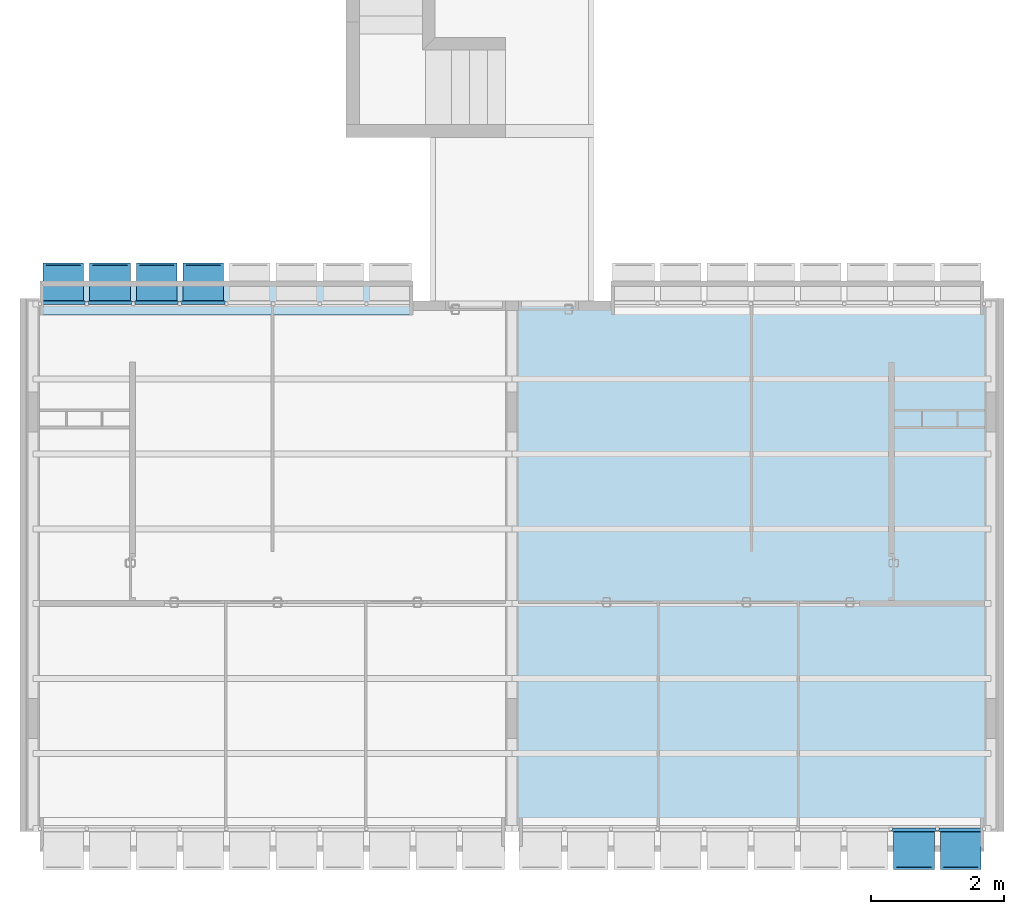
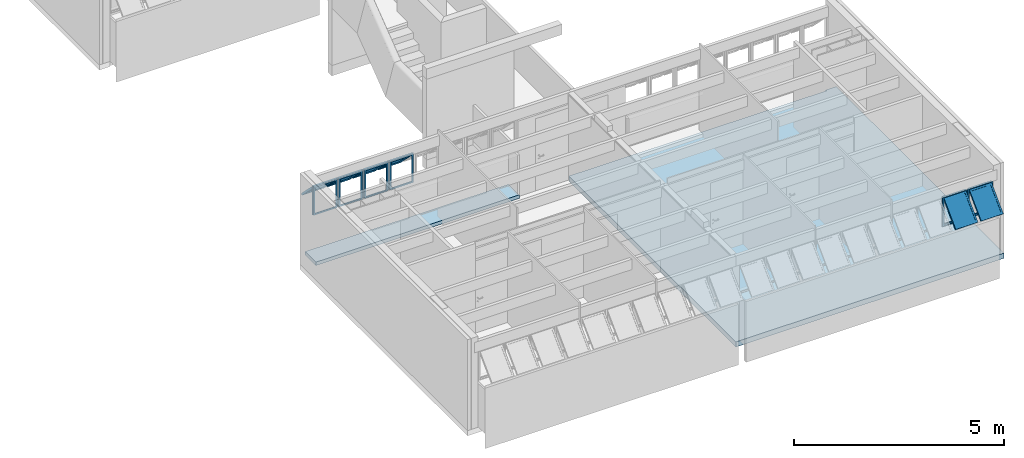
# One storey, part 7 of 40: 6 plates, 2 slabs, 2 elements without a shape of their own.
"""IFC4 building model written with IfcOpenShell, lengths in millimetres."""

import ifcopenshell
import ifcopenshell.guid

model = None  # the IFC model being written
_history = None  # IfcOwnerHistory: only IFC2X3 demands one
_inside = {}  # id of a spatial element -> (the spatial element, [elements in it])
_under = {}  # id of a project, library or spatial element -> (it, [spatial elements below it])
_declared = {}  # id of a project -> (the project, [libraries it declares])
_typed = {}  # id of a type object -> (the type object, [elements of that type])
_made_of = {}  # id of a material, layer set ... -> (it, [elements and type objects made of it])


def new_model(schema):
    """Start an empty IFC model of exactly this schema.

    Asked for "IFC4X3", IfcOpenShell would pick the latest addendum, in which some entities
    have other attributes; the version numbers below select the first issue.
    IFC2X3 requires an IfcOwnerHistory on every rooted entity: one is made here for all.
    """
    global model, _history
    if schema == "IFC4X3":
        model = ifcopenshell.file(schema_version=(4, 3, 0, 0))
    else:
        model = ifcopenshell.file(schema=schema)
    _inside.clear()
    _under.clear()
    _declared.clear()
    _typed.clear()
    _made_of.clear()
    _history = None
    if model.schema == "IFC2X3":
        org = make("IfcOrganization", Name="unknown")
        user = make(
            "IfcPersonAndOrganization",
            ThePerson=make("IfcPerson", FamilyName="unknown"),
            TheOrganization=org,
        )
        app = make(
            "IfcApplication",
            ApplicationDeveloper=org,
            Version="unknown",
            ApplicationFullName="unknown",
            ApplicationIdentifier="unknown",
        )
        _history = make(
            "IfcOwnerHistory",
            OwningUser=user,
            OwningApplication=app,
            ChangeAction="ADDED",
            CreationDate=0,
        )
    return model


def make(cls, **values):
    """One entity of the class cls with the attributes given. An attribute that is None is left unset."""
    return model.create_entity(
        cls, **{name: value for name, value in values.items() if value is not None}
    )


def entity(cls, *values):
    """Any entity or typed value of the class cls, its attributes in the order of the schema. None: left unset."""
    e = model.create_entity(cls)
    for i, value in enumerate(values):
        if value is not None:
            e[i] = value
    return e


def rooted(cls, **values):
    """An entity with a GlobalId (a new one), such as an element, a storey or a relation."""
    return make(cls, GlobalId=ifcopenshell.guid.new(), OwnerHistory=_history, **values)


def si_unit(unit_type, name, prefix=None):
    """IfcSIUnit, for example si_unit("LENGTHUNIT", "METRE", prefix="MILLI")."""
    return make("IfcSIUnit", UnitType=unit_type, Prefix=prefix, Name=name)


def converted_unit(unit_type, name, factor, base, dimensions=None, offset=None):
    """IfcConversionBasedUnit, such as the inch: factor (a typed value) times the base unit."""
    return make(
        "IfcConversionBasedUnit"
        if offset is None
        else "IfcConversionBasedUnitWithOffset",
        ConversionOffset=offset,
        Dimensions=None
        if dimensions is None
        else entity("IfcDimensionalExponents", *dimensions),
        UnitType=unit_type,
        Name=name,
        ConversionFactor=make(
            "IfcMeasureWithUnit", ValueComponent=factor, UnitComponent=base
        ),
    )


def derived_unit(unit_type, elements):
    """IfcDerivedUnit: a product of units, each with its exponent."""
    return make(
        "IfcDerivedUnit",
        Elements=[
            make("IfcDerivedUnitElement", Unit=unit, Exponent=power)
            for unit, power in elements
        ],
        UnitType=unit_type,
    )


def assignment(units):
    """IfcUnitAssignment: the units of a project."""
    return None if units is None else make("IfcUnitAssignment", Units=units)


def point(xyz):
    """IfcCartesianPoint."""
    return None if xyz is None else make("IfcCartesianPoint", Coordinates=xyz)


def direction(xyz):
    """IfcDirection."""
    return None if xyz is None else make("IfcDirection", DirectionRatios=xyz)


def frame(location, z_axis=None, x_axis=None):
    """IfcAxis2Placement3D, a coordinate frame: its origin and axes. An axis left out is left unset."""
    return make(
        "IfcAxis2Placement3D",
        Location=point(location),
        Axis=direction(z_axis),
        RefDirection=direction(x_axis),
    )


def origin_with_axes():
    """The frame at (0, 0, 0) with the z axis (0, 0, 1) and the x axis (1, 0, 0) written out."""
    return frame((0.0, 0.0, 0.0), z_axis=(0.0, 0.0, 1.0), x_axis=(1.0, 0.0, 0.0))


def place(relative_to, where):
    """IfcLocalPlacement: puts the frame where relative to a parent placement (None: the world)."""
    return make(
        "IfcLocalPlacement", PlacementRelTo=relative_to, RelativePlacement=where
    )


def context(
    kind, dimensions, precision=None, world=None, true_north=None, identifier=None
):
    """IfcGeometricRepresentationContext, for example the 3D "Model" context."""
    return make(
        "IfcGeometricRepresentationContext",
        ContextIdentifier=identifier,
        ContextType=kind,
        CoordinateSpaceDimension=dimensions,
        Precision=precision,
        WorldCoordinateSystem=world,
        TrueNorth=true_north,
    )


def subcontext(parent, identifier, kind, view, scale=None):
    """IfcGeometricRepresentationSubContext, for example "Body" below "Model"."""
    return make(
        "IfcGeometricRepresentationSubContext",
        ContextIdentifier=identifier,
        ContextType=kind,
        ParentContext=parent,
        TargetScale=scale,
        TargetView=view,
    )


def project(units=None, contexts=None):
    """IfcProject with its units and contexts."""
    return rooted(
        "IfcProject",
        Name="project",
        RepresentationContexts=contexts,
        UnitsInContext=assignment(units),
    )


def spatial(cls, under=None, at=None, **own):
    """A site, building, storey or space (cls), placed at a placement, below another one or the project."""
    s = rooted(cls, ObjectPlacement=at, **own)
    if under is not None:
        _under.setdefault(under.id(), (under, []))[1].append(s)
    return s


def point_list(points):
    """IfcCartesianPointList2D or 3D."""
    cls = (
        "IfcCartesianPointList2D" if len(points[0]) == 2 else "IfcCartesianPointList3D"
    )
    return make(cls, CoordList=points)


def line(*indices):
    """IfcLineIndex: a straight run through numbered points of an indexed curve."""
    return model.create_entity("IfcLineIndex", indices)


def indexed_curve(points, segments=None, self_intersect=None):
    """IfcIndexedPolyCurve: lines and arcs through numbered points (the first is 1)."""
    return make(
        "IfcIndexedPolyCurve",
        Points=point_list(points),
        Segments=segments,
        SelfIntersect=self_intersect,
    )


def outline(outer, holes=None, kind="AREA"):
    """IfcArbitraryClosedProfileDef: a profile drawn as a closed curve; with holes, ...WithVoids."""
    if holes is None:
        return make("IfcArbitraryClosedProfileDef", ProfileType=kind, OuterCurve=outer)
    return make(
        "IfcArbitraryProfileDefWithVoids",
        ProfileType=kind,
        OuterCurve=outer,
        InnerCurves=holes,
    )


def extrude(swept, where, along, depth):
    """IfcExtrudedAreaSolid: the profile swept, set in the frame where, extruded along a direction by depth."""
    return make(
        "IfcExtrudedAreaSolid",
        SweptArea=swept,
        Position=where,
        ExtrudedDirection=direction(along),
        Depth=depth,
    )


def polygons(points, faces, closed=None, point_numbers=None):
    """IfcPolygonalFaceSet: a face is its outer loop, then its inner loops; points numbered from 1."""
    made = []
    for loops in faces:
        if len(loops) == 1:
            made.append(make("IfcIndexedPolygonalFace", CoordIndex=loops[0]))
        else:
            made.append(
                make(
                    "IfcIndexedPolygonalFaceWithVoids",
                    CoordIndex=loops[0],
                    InnerCoordIndices=loops[1:],
                )
            )
    return make(
        "IfcPolygonalFaceSet",
        Coordinates=point_list(points),
        Closed=closed,
        Faces=made,
        PnIndex=point_numbers,
    )


def shape(context_of_items, identifier, shape_type, items):
    """IfcShapeRepresentation: the items that make up one representation, for example the "Body"."""
    return make(
        "IfcShapeRepresentation",
        ContextOfItems=context_of_items,
        RepresentationIdentifier=identifier,
        RepresentationType=shape_type,
        Items=items,
    )


def source(mapping_origin, context_of_items, identifier, shape_type, items):
    """IfcRepresentationMap: a shape defined once, which mapped items show again and again."""
    return make(
        "IfcRepresentationMap",
        MappingOrigin=mapping_origin,
        MappedRepresentation=shape(context_of_items, identifier, shape_type, items),
    )


def transform(
    local_origin,
    x_axis=None,
    y_axis=None,
    z_axis=None,
    scale=None,
    scale2=None,
    scale3=None,
    uniform=True,
):
    """IfcCartesianTransformationOperator3D, or its non-uniform kind. x_axis, y_axis, z_axis: its Axis1, 2, 3."""
    if uniform:
        return make(
            "IfcCartesianTransformationOperator3D",
            Axis1=direction(x_axis),
            Axis2=direction(y_axis),
            LocalOrigin=point(local_origin),
            Scale=scale,
            Axis3=direction(z_axis),
        )
    return make(
        "IfcCartesianTransformationOperator3DnonUniform",
        Axis1=direction(x_axis),
        Axis2=direction(y_axis),
        LocalOrigin=point(local_origin),
        Scale=scale,
        Axis3=direction(z_axis),
        Scale2=scale2,
        Scale3=scale3,
    )


def mapped(mapping_source, mapping_target):
    """IfcMappedItem: shows the shape of a source again, moved by a transform."""
    return make(
        "IfcMappedItem", MappingSource=mapping_source, MappingTarget=mapping_target
    )


def material(Name=None, Category=None):
    """IfcMaterial."""
    return make("IfcMaterial", Name=Name, Category=Category)


def layer(
    of_material, thickness, ventilated=None, Name=None, Category=None, Priority=None
):
    """IfcMaterialLayer: one layer of a wall or slab, of a material (None: an air gap)."""
    return make(
        "IfcMaterialLayer",
        Material=of_material,
        LayerThickness=thickness,
        IsVentilated=ventilated,
        Name=Name,
        Category=Category,
        Priority=Priority,
    )


def layer_set(layers, Name=None):
    """IfcMaterialLayerSet."""
    return make("IfcMaterialLayerSet", MaterialLayers=layers, LayerSetName=Name)


def layer_usage(for_layer_set, set_direction, sense, offset, extent=None):
    """IfcMaterialLayerSetUsage: how a layer set lies in its element."""
    return make(
        "IfcMaterialLayerSetUsage",
        ForLayerSet=for_layer_set,
        LayerSetDirection=set_direction,
        DirectionSense=sense,
        OffsetFromReferenceLine=offset,
        ReferenceExtent=extent,
    )


def constituent(of_material, Name=None, Category=None, fraction=None):
    """IfcMaterialConstituent: one of the materials an element consists of."""
    return make(
        "IfcMaterialConstituent",
        Name=Name,
        Material=of_material,
        Fraction=fraction,
        Category=Category,
    )


def constituent_set(constituents=None, Name=None):
    """IfcMaterialConstituentSet."""
    return make(
        "IfcMaterialConstituentSet", Name=Name, MaterialConstituents=constituents
    )


def made_of(thing, what):
    """Note that an element or type object is made of a material, layer set ...; save() writes the relation."""
    if what is not None:
        _made_of.setdefault(what.id(), (what, []))[1].append(thing)
    return thing


def type_object(cls, material=None, **own):
    """A type object (cls), such as IfcWallType, which elements share."""
    return made_of(rooted(cls, **own), material)


def element(
    cls,
    number,
    at=None,
    inside=None,
    cuts=None,
    type_object=None,
    material=None,
    context=None,
    identifier="Body",
    shape_type=None,
    held_by="IfcProductDefinitionShape",
    body=None,
    shapes=None,
    **own,
):
    """One element of the class cls, such as IfcWall. Its Tag is "e" and its number.

    at: its placement. inside: the storey or other place that contains it. cuts: it is an
    opening in that element (IfcRelVoidsElement). A single representation is given by context,
    identifier, shape_type and body (its items); several are given by shapes. held_by: the class
    of the entity that holds the representations. save() writes the other relations.
    """
    e = rooted(cls, Tag="e%d" % number, ObjectPlacement=at, **own)
    if body is not None:
        shapes = [shape(context, identifier, shape_type, body)]
    if shapes is not None:
        e.Representation = make(held_by, Representations=shapes)
    if inside is not None:
        _inside.setdefault(inside.id(), (inside, []))[1].append(e)
    if cuts is not None:
        rooted(
            "IfcRelVoidsElement", RelatingBuildingElement=cuts, RelatedOpeningElement=e
        )
    if type_object is not None:
        _typed.setdefault(type_object.id(), (type_object, []))[1].append(e)
    return made_of(e, material)


def aggregate(whole, parts):
    """IfcRelAggregates: a whole, such as a stair, and the parts it consists of."""
    return rooted("IfcRelAggregates", RelatingObject=whole, RelatedObjects=parts)


def save(model, path):
    """Write the relations noted so far, then the file.

    IfcRelAggregates (storeys below a building ...), IfcRelContainedInSpatialStructure (elements
    in a storey), IfcRelDefinesByType, IfcRelAssociatesMaterial and IfcRelDeclares: one each for
    every whole, place, type object, material and project.
    """
    for whole, parts in _under.values():
        aggregate(whole, parts)
    for where, things in _inside.values():
        rooted(
            "IfcRelContainedInSpatialStructure",
            RelatedElements=things,
            RelatingStructure=where,
        )
    for kind, things in _typed.values():
        rooted("IfcRelDefinesByType", RelatedObjects=things, RelatingType=kind)
    for what, things in _made_of.values():
        rooted("IfcRelAssociatesMaterial", RelatedObjects=things, RelatingMaterial=what)
    for by, libraries in _declared.values():
        rooted("IfcRelDeclares", RelatingContext=by, RelatedDefinitions=libraries)
    model.write(path)


model = new_model("IFC4")

# Units and contexts
model_context = context("Model", 3, precision=0.01, world=origin_with_axes(), true_north=direction((0.0, 1.0)))
body_context = subcontext(model_context, "Body", "Model", "MODEL_VIEW")
ifc_project = project(units=[si_unit("LENGTHUNIT", "METRE", prefix="MILLI"), si_unit("AREAUNIT", "SQUARE_METRE"), si_unit("VOLUMEUNIT", "CUBIC_METRE"), converted_unit("PLANEANGLEUNIT", "DEGREE", entity("IfcPlaneAngleMeasure", 0.0174532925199), si_unit("PLANEANGLEUNIT", "RADIAN"), dimensions=[0, 0, 0, 0, 0, 0, 0]), converted_unit("TIMEUNIT", "Year", entity("IfcTimeMeasure", 31556926.0), si_unit("TIMEUNIT", "SECOND"), dimensions=[0, 0, 1, 0, 0, 0, 0]), si_unit("MASSUNIT", "GRAM", prefix="KILO"), si_unit("THERMODYNAMICTEMPERATUREUNIT", "DEGREE_CELSIUS"), si_unit("LUMINOUSINTENSITYUNIT", "LUMEN"), si_unit("ENERGYUNIT", "JOULE", prefix="MEGA"), derived_unit("THERMALCONDUCTANCEUNIT", [(si_unit("POWERUNIT", "WATT"), 1), (si_unit("LENGTHUNIT", "METRE"), -1), (si_unit("THERMODYNAMICTEMPERATUREUNIT", "KELVIN"), -1)]), derived_unit("SPECIFICHEATCAPACITYUNIT", [(si_unit("ENERGYUNIT", "JOULE"), 1), (si_unit("MASSUNIT", "GRAM", prefix="KILO"), -1), (si_unit("THERMODYNAMICTEMPERATUREUNIT", "KELVIN"), -1)]), derived_unit("MASSDENSITYUNIT", [(si_unit("MASSUNIT", "GRAM", prefix="KILO"), 1), (si_unit("VOLUMEUNIT", "CUBIC_METRE"), -1)])], contexts=[model_context])

# Site, building, storey
site_placement = place(None, origin_with_axes())
site = spatial("IfcSite", under=ifc_project, at=site_placement, Name="Local", CompositionType="ELEMENT")
building_placement = place(site_placement, origin_with_axes())
building = spatial("IfcBuilding", under=site, at=building_placement, Name="Construção", CompositionType="ELEMENT")
storey_placement = place(building_placement, origin_with_axes())
storey = spatial("IfcBuildingStorey", under=building, at=storey_placement, Name="Primeiro Pavimento", CompositionType="ELEMENT", Elevation=0.0)

# Slabs
ifc_material_1 = material(Name="Concreto Armado Moldado in Loco - Estrutural")
ifc_layer_1 = layer(ifc_material_1, 150.0, ventilated="UNKNOWN", Name="Concreto Armado Moldado in Loco - Estrutural")
ifc_layer_set_1 = layer_set([ifc_layer_1], Name="Concreto Armado Moldado in Loco - Estrutural 150")
ifc_layer_usage_1 = layer_usage(ifc_layer_set_1, "AXIS3", "NEGATIVE", 150.0)
slab_type_1 = type_object("IfcSlabType", Name="Concreto Armado Moldado in Loco - Estrutural 150", PredefinedType="FLOOR")
slab_1_placement = place(storey_placement, frame((14770.0, 300.0, 0.0), z_axis=(0.0, 0.0, 1.0), x_axis=(1.0, 0.0, 0.0)))
element("IfcSlab", 1, at=slab_1_placement, inside=storey, type_object=slab_type_1, material=ifc_layer_usage_1, Name="APTO2-LAJE-000", PredefinedType="FLOOR", context=body_context, shape_type="SweptSolid", body=[
    extrude(outline(indexed_curve([(0.0, 0.0), (0.0, 7999.99999872), (-289.999999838, 8000.00000006), (-290.0, 7965.0), (-5900.0, 7965.0), (-6160.00008404, 7964.99999866), (-7385.0, 7964.99999866), (-7385.0, 0.0), (-299.999978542, 0.0)], segments=[line(1, 2, 3, 4, 5, 6, 7, 8, 9, 1)])), frame((0.0, 0.0, -150.0), z_axis=(0.0, 0.0, 1.0), x_axis=(1.0, 0.0, 0.0)), (0.0, 0.0, 1.0), 150.0),
])
ifc_layer_2 = layer(ifc_material_1, 100.0, ventilated="UNKNOWN", Name="Concreto Armado Moldado in Loco - Estrutural")
ifc_layer_set_2 = layer_set([ifc_layer_2], Name="Concreto Armado Moldado in Loco - Estrutural 100")
ifc_layer_usage_2 = layer_usage(ifc_layer_set_2, "AXIS3", "NEGATIVE", 100.0)
slab_type_2 = type_object("IfcSlabType", Name="Concreto Armado Moldado in Loco - Estrutural 100", PredefinedType="FLOOR")
slab_2_placement = place(storey_placement, frame((300.0, 8564.99999866, 100.0), z_axis=(0.0, 0.0, 1.0), x_axis=(1.0, 0.0, 0.0)))
element("IfcSlab", 2, at=slab_2_placement, inside=storey, type_object=slab_type_2, material=ifc_layer_usage_2, Name="APTO1-LAJE-004", PredefinedType="FLOOR", context=body_context, shape_type="SweptSolid", body=[
    extrude(outline(indexed_curve([(0.0, 0.0), (0.0, -510.0), (5600.0, -510.0), (5600.0, 0.0)], segments=[line(1, 2, 3, 4, 1)])), frame((0.0, 0.0, -100.0), z_axis=(0.0, 0.0, 1.0), x_axis=(1.0, 0.0, 0.0)), (0.0, 0.0, 1.0), 100.0),
])

# Window, plate
window_type = type_object("IfcWindowType", Name="Tipo de Parede Cortina", PartitioningType="NOTDEFINED", PredefinedType="NOTDEFINED")
window_1_placement = place(storey_placement, frame((294.99998404, 8250.0, 1355.00007107), z_axis=(0.0, 0.0, 1.0), x_axis=(1.0, 0.0, 0.0)))
window_1 = element("IfcWindow", 3, at=window_1_placement, inside=storey, type_object=window_type, Name="APTO1-JANELA-000", PredefinedType="NOTDEFINED")
ifc_material_2 = material(Name="Alumínio")
ifc_constituent_1 = constituent(ifc_material_2, Name="Alumínio")
ifc_material_3 = material(Name="Vidro")
ifc_constituent_2 = constituent(ifc_material_3, Name="Vidro")
ifc_constituent_set_1 = constituent_set(constituents=[ifc_constituent_1, ifc_constituent_2])
plate_type = type_object("IfcPlateType", Name="Painel Principal 690 x 845 x 20", PredefinedType="CURTAIN_PANEL")
shared_shape_1 = source(origin_with_axes(), body_context, "Body", "Tessellation", [
    polygons([(-25.0000036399, 0.0, -40.0), (-25.0000036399, 0.0, -35.0), (-674.999997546, 0.0, -35.0), (-674.999997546, 0.0, -40.0), (-70.0000036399, 45.0, -40.0), (-70.0000036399, 45.0, -35.0), (-629.999997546, 45.0, -35.0), (-629.999997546, 45.0, -40.0)], [[[1, 2, 3, 4]], [[5, 6, 2, 1]], [[2, 6, 7, 3]], [[4, 3, 7, 8]], [[1, 4, 8, 5]], [[8, 7, 6, 5]]], closed=True),
    polygons([(-674.999997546, 0.0, -40.0), (-674.999997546, 0.0, -35.0), (-674.999997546, 844.999891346, -35.0), (-674.999997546, 844.999891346, -40.0), (-629.999997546, 45.0, -40.0), (-629.999997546, 45.0, -35.0), (-629.999997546, 799.999891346, -35.0), (-629.999997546, 799.999891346, -40.0)], [[[1, 2, 3, 4]], [[5, 6, 2, 1]], [[2, 6, 7, 3]], [[4, 3, 7, 8]], [[1, 4, 8, 5]], [[8, 7, 6, 5]]], closed=True),
    polygons([(-25.0000036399, 844.999891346, -40.0), (-25.0000036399, 844.999891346, -35.0), (-70.0000036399, 799.999891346, -35.0), (-70.0000036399, 799.999891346, -40.0), (-674.999997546, 844.999891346, -40.0), (-674.999997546, 844.999891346, -35.0), (-629.999997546, 799.999891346, -35.0), (-629.999997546, 799.999891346, -40.0)], [[[1, 2, 3, 4]], [[5, 6, 2, 1]], [[2, 6, 7, 3]], [[4, 3, 7, 8]], [[1, 4, 8, 5]], [[8, 7, 6, 5]]], closed=True),
    polygons([(-25.0000036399, 0.0, -40.0), (-25.0000036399, 0.0, -35.0), (-70.0000036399, 45.0, -35.0), (-70.0000036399, 45.0, -40.0), (-25.0000036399, 844.999891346, -40.0), (-25.0000036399, 844.999891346, -35.0), (-70.0000036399, 799.999891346, -35.0), (-70.0000036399, 799.999891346, -40.0)], [[[1, 2, 3, 4]], [[5, 6, 2, 1]], [[2, 6, 7, 3]], [[4, 3, 7, 8]], [[1, 4, 8, 5]], [[8, 7, 6, 5]]], closed=True),
    polygons([(-25.0000036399, 0.0, -35.0), (-25.0000036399, 0.0, 15.0), (-674.999997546, 0.0, 15.0), (-674.999997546, 0.0, -35.0), (-45.0000036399, 20.0, -35.0), (-45.0000036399, 20.0, 15.0), (-654.999997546, 20.0, 15.0), (-654.999997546, 20.0, -35.0)], [[[1, 2, 3, 4]], [[5, 6, 2, 1]], [[2, 6, 7, 3]], [[4, 3, 7, 8]], [[1, 4, 8, 5]], [[8, 7, 6, 5]]], closed=True),
    polygons([(-674.999997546, 0.0, -35.0), (-674.999997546, 0.0, 15.0), (-674.999997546, 844.999891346, 15.0), (-674.999997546, 844.999891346, -35.0), (-654.999997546, 20.0, -35.0), (-654.999997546, 20.0, 15.0), (-654.999997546, 824.999891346, 15.0), (-654.999997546, 824.999891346, -35.0)], [[[1, 2, 3, 4]], [[5, 6, 2, 1]], [[2, 6, 7, 3]], [[4, 3, 7, 8]], [[1, 4, 8, 5]], [[8, 7, 6, 5]]], closed=True),
    polygons([(-25.0000036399, 844.999891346, -35.0), (-25.0000036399, 844.999891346, 15.0), (-45.0000036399, 824.999891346, 15.0), (-45.0000036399, 824.999891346, -35.0), (-674.999997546, 844.999891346, -35.0), (-674.999997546, 844.999891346, 15.0), (-654.999997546, 824.999891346, 15.0), (-654.999997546, 824.999891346, -35.0)], [[[1, 2, 3, 4]], [[5, 6, 2, 1]], [[2, 6, 7, 3]], [[4, 3, 7, 8]], [[1, 4, 8, 5]], [[8, 7, 6, 5]]], closed=True),
    polygons([(-25.0000036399, 0.0, -35.0), (-25.0000036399, 0.0, 15.0), (-45.0000036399, 20.0, 15.0), (-45.0000036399, 20.0, -35.0), (-25.0000036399, 844.999891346, -35.0), (-25.0000036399, 844.999891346, 15.0), (-45.0000036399, 824.999891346, 15.0), (-45.0000036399, 824.999891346, -35.0)], [[[1, 2, 3, 4]], [[5, 6, 2, 1]], [[2, 6, 7, 3]], [[4, 3, 7, 8]], [[1, 4, 8, 5]], [[8, 7, 6, 5]]], closed=True),
    polygons([(-694.999995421, 0.0, -10.0), (-694.999995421, 0.0, 10.0), (-694.999995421, 844.999891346, 10.0), (-694.999995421, 844.999891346, -10.0), (-674.999997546, 0.0, -10.0), (-674.999997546, 0.0, 10.0), (-674.999997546, 844.999891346, 10.0), (-674.999997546, 844.999891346, -10.0)], [[[1, 2, 3, 4]], [[5, 6, 2, 1]], [[2, 6, 7, 3]], [[4, 3, 7, 8]], [[1, 4, 8, 5]], [[8, 7, 6, 5]]], closed=True),
    polygons([(-5.00000576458, 844.999891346, -10.0), (-5.00000576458, 844.999891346, 10.0), (-5.00000576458, 0.0, 10.0), (-5.00000576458, 0.0, -10.0), (-25.0000036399, 844.999891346, -10.0), (-25.0000036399, 844.999891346, 10.0), (-25.0000036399, 0.0, 10.0), (-25.0000036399, 0.0, -10.0)], [[[1, 2, 3, 4]], [[5, 6, 2, 1]], [[2, 6, 7, 3]], [[4, 3, 7, 8]], [[1, 4, 8, 5]], [[8, 7, 6, 5]]], closed=True),
    polygons([(-90.0000036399, 252.243475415, 517.045737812), (-90.0000036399, 291.13434838, 555.936610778), (-90.0000036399, 796.715620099, 50.3553390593), (-90.0000036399, 757.824747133, 11.4644660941), (-45.0000036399, 220.423670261, 548.865542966), (-45.0000036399, 259.314543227, 587.756415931), (-45.0000036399, 828.535425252, 18.5355339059), (-45.0000036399, 789.644552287, -20.3553390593)], [[[1, 2, 3, 4]], [[5, 6, 2, 1]], [[2, 6, 7, 3]], [[4, 3, 7, 8]], [[1, 4, 8, 5]], [[8, 7, 6, 5]]], closed=True),
    polygons([(-654.999997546, 220.423670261, 548.865542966), (-654.999997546, 259.314543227, 587.756415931), (-654.999997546, 828.535425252, 18.5355339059), (-654.999997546, 789.644552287, -20.3553390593), (-609.999997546, 252.243475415, 517.045737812), (-609.999997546, 291.13434838, 555.936610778), (-609.999997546, 796.715620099, 50.3553390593), (-609.999997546, 757.824747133, 11.4644660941)], [[[1, 2, 3, 4]], [[5, 6, 2, 1]], [[2, 6, 7, 3]], [[4, 3, 7, 8]], [[1, 4, 8, 5]], [[8, 7, 6, 5]]], closed=True),
    polygons([(-654.999997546, 220.423670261, 548.865542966), (-654.999997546, 259.314543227, 587.756415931), (-609.999997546, 291.13434838, 555.936610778), (-609.999997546, 252.243475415, 517.045737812), (-45.0000036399, 220.423670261, 548.865542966), (-45.0000036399, 259.314543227, 587.756415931), (-90.0000036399, 291.13434838, 555.936610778), (-90.0000036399, 252.243475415, 517.045737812)], [[[1, 2, 3, 4]], [[5, 6, 2, 1]], [[2, 6, 7, 3]], [[4, 3, 7, 8]], [[1, 4, 8, 5]], [[8, 7, 6, 5]]], closed=True),
    polygons([(-45.0000036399, 789.644552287, -20.3553390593), (-45.0000036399, 828.535425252, 18.5355339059), (-90.0000036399, 796.715620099, 50.3553390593), (-90.0000036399, 757.824747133, 11.4644660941), (-654.999997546, 789.644552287, -20.3553390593), (-654.999997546, 828.535425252, 18.5355339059), (-609.999997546, 796.715620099, 50.3553390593), (-609.999997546, 757.824747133, 11.4644660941)], [[[1, 2, 3, 4]], [[5, 6, 2, 1]], [[2, 6, 7, 3]], [[4, 3, 7, 8]], [[1, 4, 8, 5]], [[8, 7, 6, 5]]], closed=True),
    polygons([(-90.0000036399, 272.749572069, 537.551834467), (-90.0000036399, 284.063280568, 548.865542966), (-609.999997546, 284.063280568, 548.865542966), (-609.999997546, 272.749572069, 537.551834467), (-90.0000036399, 778.330843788, 31.9705627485), (-90.0000036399, 789.644552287, 43.2842712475), (-609.999997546, 789.644552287, 43.2842712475), (-609.999997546, 778.330843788, 31.9705627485)], [[[1, 2, 3, 4]], [[5, 6, 2, 1]], [[2, 6, 7, 3]], [[4, 3, 7, 8]], [[1, 4, 8, 5]], [[8, 7, 6, 5]]], closed=True),
])
plate_1_placement = place(window_1_placement, frame((2455.00001596, 0.0, 422.499964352), z_axis=(0.0, 0.0, 1.0), x_axis=(-1.0, 0.0, 0.0)))
plate_1 = element("IfcPlate", 4, at=plate_1_placement, type_object=plate_type, material=ifc_constituent_set_1, Name="APTO1-Painel-Prin-013", PredefinedType="CURTAIN_PANEL", context=body_context, shape_type="MappedRepresentation", body=[
    mapped(shared_shape_1, transform((350.0, 0.0, -422.499964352), x_axis=(1.0, 0.0, 0.0), y_axis=(0.0, 0.0, 1.0), z_axis=(0.0, -1.0, 0.0))),
])

# Window, plates
window_2_placement = place(storey_placement, frame((8520.0, 315.020977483, 1355.02054151), z_axis=(0.0, 0.0, 1.0), x_axis=(1.0, 0.0, 0.0)))
window_2 = element("IfcWindow", 5, at=window_2_placement, inside=storey, type_object=window_type, Name="APTO2-JANELA-001", PredefinedType="NOTDEFINED")
ifc_constituent_3 = constituent(ifc_material_2, Name="Alumínio")
ifc_constituent_4 = constituent(ifc_material_3, Name="Vidro")
ifc_constituent_set_2 = constituent_set(constituents=[ifc_constituent_3, ifc_constituent_4])
shared_shape_2 = source(origin_with_axes(), body_context, "Body", "Tessellation", [
    polygons([(-25.0000036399, 0.0, -40.0), (-25.0000036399, 0.0, -35.0), (-674.999997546, 0.0, -35.0), (-674.999997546, 0.0, -40.0), (-70.0000036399, 45.0, -40.0), (-70.0000036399, 45.0, -35.0), (-629.999997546, 45.0, -35.0), (-629.999997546, 45.0, -40.0)], [[[1, 2, 3, 4]], [[5, 6, 2, 1]], [[2, 6, 7, 3]], [[4, 3, 7, 8]], [[1, 4, 8, 5]], [[8, 7, 6, 5]]], closed=True),
    polygons([(-674.999997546, 0.0, -40.0), (-674.999997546, 0.0, -35.0), (-674.999997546, 844.999891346, -35.0), (-674.999997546, 844.999891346, -40.0), (-629.999997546, 45.0, -40.0), (-629.999997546, 45.0, -35.0), (-629.999997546, 799.999891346, -35.0), (-629.999997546, 799.999891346, -40.0)], [[[1, 2, 3, 4]], [[5, 6, 2, 1]], [[2, 6, 7, 3]], [[4, 3, 7, 8]], [[1, 4, 8, 5]], [[8, 7, 6, 5]]], closed=True),
    polygons([(-25.0000036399, 844.999891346, -40.0), (-25.0000036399, 844.999891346, -35.0), (-70.0000036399, 799.999891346, -35.0), (-70.0000036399, 799.999891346, -40.0), (-674.999997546, 844.999891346, -40.0), (-674.999997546, 844.999891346, -35.0), (-629.999997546, 799.999891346, -35.0), (-629.999997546, 799.999891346, -40.0)], [[[1, 2, 3, 4]], [[5, 6, 2, 1]], [[2, 6, 7, 3]], [[4, 3, 7, 8]], [[1, 4, 8, 5]], [[8, 7, 6, 5]]], closed=True),
    polygons([(-25.0000036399, 0.0, -40.0), (-25.0000036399, 0.0, -35.0), (-70.0000036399, 45.0, -35.0), (-70.0000036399, 45.0, -40.0), (-25.0000036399, 844.999891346, -40.0), (-25.0000036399, 844.999891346, -35.0), (-70.0000036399, 799.999891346, -35.0), (-70.0000036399, 799.999891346, -40.0)], [[[1, 2, 3, 4]], [[5, 6, 2, 1]], [[2, 6, 7, 3]], [[4, 3, 7, 8]], [[1, 4, 8, 5]], [[8, 7, 6, 5]]], closed=True),
    polygons([(-25.0000036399, 0.0, -35.0), (-25.0000036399, 0.0, 15.0), (-674.999997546, 0.0, 15.0), (-674.999997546, 0.0, -35.0), (-45.0000036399, 20.0, -35.0), (-45.0000036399, 20.0, 15.0), (-654.999997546, 20.0, 15.0), (-654.999997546, 20.0, -35.0)], [[[1, 2, 3, 4]], [[5, 6, 2, 1]], [[2, 6, 7, 3]], [[4, 3, 7, 8]], [[1, 4, 8, 5]], [[8, 7, 6, 5]]], closed=True),
    polygons([(-674.999997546, 0.0, -35.0), (-674.999997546, 0.0, 15.0), (-674.999997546, 844.999891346, 15.0), (-674.999997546, 844.999891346, -35.0), (-654.999997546, 20.0, -35.0), (-654.999997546, 20.0, 15.0), (-654.999997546, 824.999891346, 15.0), (-654.999997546, 824.999891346, -35.0)], [[[1, 2, 3, 4]], [[5, 6, 2, 1]], [[2, 6, 7, 3]], [[4, 3, 7, 8]], [[1, 4, 8, 5]], [[8, 7, 6, 5]]], closed=True),
    polygons([(-25.0000036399, 844.999891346, -35.0), (-25.0000036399, 844.999891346, 15.0), (-45.0000036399, 824.999891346, 15.0), (-45.0000036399, 824.999891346, -35.0), (-674.999997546, 844.999891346, -35.0), (-674.999997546, 844.999891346, 15.0), (-654.999997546, 824.999891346, 15.0), (-654.999997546, 824.999891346, -35.0)], [[[1, 2, 3, 4]], [[5, 6, 2, 1]], [[2, 6, 7, 3]], [[4, 3, 7, 8]], [[1, 4, 8, 5]], [[8, 7, 6, 5]]], closed=True),
    polygons([(-25.0000036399, 0.0, -35.0), (-25.0000036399, 0.0, 15.0), (-45.0000036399, 20.0, 15.0), (-45.0000036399, 20.0, -35.0), (-25.0000036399, 844.999891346, -35.0), (-25.0000036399, 844.999891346, 15.0), (-45.0000036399, 824.999891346, 15.0), (-45.0000036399, 824.999891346, -35.0)], [[[1, 2, 3, 4]], [[5, 6, 2, 1]], [[2, 6, 7, 3]], [[4, 3, 7, 8]], [[1, 4, 8, 5]], [[8, 7, 6, 5]]], closed=True),
    polygons([(-694.999995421, 0.0, -10.0), (-694.999995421, 0.0, 10.0), (-694.999995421, 844.999891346, 10.0), (-694.999995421, 844.999891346, -10.0), (-674.999997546, 0.0, -10.0), (-674.999997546, 0.0, 10.0), (-674.999997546, 844.999891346, 10.0), (-674.999997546, 844.999891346, -10.0)], [[[1, 2, 3, 4]], [[5, 6, 2, 1]], [[2, 6, 7, 3]], [[4, 3, 7, 8]], [[1, 4, 8, 5]], [[8, 7, 6, 5]]], closed=True),
    polygons([(-5.00000576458, 844.999891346, -10.0), (-5.00000576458, 844.999891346, 10.0), (-5.00000576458, 0.0, 10.0), (-5.00000576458, 0.0, -10.0), (-25.0000036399, 844.999891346, -10.0), (-25.0000036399, 844.999891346, 10.0), (-25.0000036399, 0.0, 10.0), (-25.0000036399, 0.0, -10.0)], [[[1, 2, 3, 4]], [[5, 6, 2, 1]], [[2, 6, 7, 3]], [[4, 3, 7, 8]], [[1, 4, 8, 5]], [[8, 7, 6, 5]]], closed=True),
    polygons([(-90.0000036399, 252.243475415, 517.045737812), (-90.0000036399, 291.13434838, 555.936610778), (-90.0000036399, 796.715620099, 50.3553390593), (-90.0000036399, 757.824747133, 11.4644660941), (-45.0000036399, 220.423670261, 548.865542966), (-45.0000036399, 259.314543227, 587.756415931), (-45.0000036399, 828.535425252, 18.5355339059), (-45.0000036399, 789.644552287, -20.3553390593)], [[[1, 2, 3, 4]], [[5, 6, 2, 1]], [[2, 6, 7, 3]], [[4, 3, 7, 8]], [[1, 4, 8, 5]], [[8, 7, 6, 5]]], closed=True),
    polygons([(-654.999997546, 220.423670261, 548.865542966), (-654.999997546, 259.314543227, 587.756415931), (-654.999997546, 828.535425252, 18.5355339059), (-654.999997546, 789.644552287, -20.3553390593), (-609.999997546, 252.243475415, 517.045737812), (-609.999997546, 291.13434838, 555.936610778), (-609.999997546, 796.715620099, 50.3553390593), (-609.999997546, 757.824747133, 11.4644660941)], [[[1, 2, 3, 4]], [[5, 6, 2, 1]], [[2, 6, 7, 3]], [[4, 3, 7, 8]], [[1, 4, 8, 5]], [[8, 7, 6, 5]]], closed=True),
    polygons([(-654.999997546, 220.423670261, 548.865542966), (-654.999997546, 259.314543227, 587.756415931), (-609.999997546, 291.13434838, 555.936610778), (-609.999997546, 252.243475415, 517.045737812), (-45.0000036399, 220.423670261, 548.865542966), (-45.0000036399, 259.314543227, 587.756415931), (-90.0000036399, 291.13434838, 555.936610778), (-90.0000036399, 252.243475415, 517.045737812)], [[[1, 2, 3, 4]], [[5, 6, 2, 1]], [[2, 6, 7, 3]], [[4, 3, 7, 8]], [[1, 4, 8, 5]], [[8, 7, 6, 5]]], closed=True),
    polygons([(-45.0000036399, 789.644552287, -20.3553390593), (-45.0000036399, 828.535425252, 18.5355339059), (-90.0000036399, 796.715620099, 50.3553390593), (-90.0000036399, 757.824747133, 11.4644660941), (-654.999997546, 789.644552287, -20.3553390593), (-654.999997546, 828.535425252, 18.5355339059), (-609.999997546, 796.715620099, 50.3553390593), (-609.999997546, 757.824747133, 11.4644660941)], [[[1, 2, 3, 4]], [[5, 6, 2, 1]], [[2, 6, 7, 3]], [[4, 3, 7, 8]], [[1, 4, 8, 5]], [[8, 7, 6, 5]]], closed=True),
    polygons([(-90.0000036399, 272.749572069, 537.551834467), (-90.0000036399, 284.063280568, 548.865542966), (-609.999997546, 284.063280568, 548.865542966), (-609.999997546, 272.749572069, 537.551834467), (-90.0000036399, 778.330843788, 31.9705627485), (-90.0000036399, 789.644552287, 43.2842712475), (-609.999997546, 789.644552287, 43.2842712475), (-609.999997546, 778.330843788, 31.9705627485)], [[[1, 2, 3, 4]], [[5, 6, 2, 1]], [[2, 6, 7, 3]], [[4, 3, 7, 8]], [[1, 4, 8, 5]], [[8, 7, 6, 5]]], closed=True),
])
plate_2_placement = place(window_2_placement, frame((5600.0, 0.0, 422.499945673), z_axis=(0.0, 0.0, 1.0), x_axis=(1.0, 0.0, 0.0)))
plate_2 = element("IfcPlate", 6, at=plate_2_placement, type_object=plate_type, material=ifc_constituent_set_2, Name="APTO2-Painel-Prin-013", PredefinedType="CURTAIN_PANEL", context=body_context, shape_type="MappedRepresentation", body=[
    mapped(shared_shape_2, transform((350.0, 0.0, -422.499945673), x_axis=(1.0, 0.0, 0.0), y_axis=(0.0, 0.0, 1.0), z_axis=(0.0, -1.0, 0.0))),
])
ifc_constituent_5 = constituent(ifc_material_2, Name="Alumínio")
ifc_constituent_6 = constituent(ifc_material_3, Name="Vidro")
ifc_constituent_set_3 = constituent_set(constituents=[ifc_constituent_5, ifc_constituent_6])
plate_3_placement = place(window_2_placement, frame((4900.0, 0.0, 422.499945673), z_axis=(0.0, 0.0, 1.0), x_axis=(1.0, 0.0, 0.0)))
plate_3 = element("IfcPlate", 7, at=plate_3_placement, type_object=plate_type, material=ifc_constituent_set_3, Name="APTO2-Painel-Prin-013", PredefinedType="CURTAIN_PANEL", context=body_context, shape_type="MappedRepresentation", body=[
    mapped(shared_shape_2, transform((350.0, 0.0, -422.499945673), x_axis=(1.0, 0.0, 0.0), y_axis=(0.0, 0.0, 1.0), z_axis=(0.0, -1.0, 0.0))),
])
aggregate(window_2, [plate_2, plate_3])

# Plate
ifc_constituent_7 = constituent(ifc_material_2, Name="Alumínio")
ifc_constituent_8 = constituent(ifc_material_3, Name="Vidro")
ifc_constituent_set_4 = constituent_set(constituents=[ifc_constituent_7, ifc_constituent_8])
plate_4_placement = place(window_1_placement, frame((1055.00001596, 0.0, 422.499964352), z_axis=(0.0, 0.0, 1.0), x_axis=(-1.0, 0.0, 0.0)))
plate_4 = element("IfcPlate", 8, at=plate_4_placement, type_object=plate_type, material=ifc_constituent_set_4, Name="APTO1-Painel-Prin-013", PredefinedType="CURTAIN_PANEL", context=body_context, shape_type="MappedRepresentation", body=[
    mapped(shared_shape_2, transform((350.0, 0.0, -422.499964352), x_axis=(1.0, 0.0, 0.0), y_axis=(0.0, 0.0, 1.0), z_axis=(0.0, -1.0, 0.0))),
])

ifc_constituent_9 = constituent(ifc_material_2, Name="Alumínio")
ifc_constituent_10 = constituent(ifc_material_3, Name="Vidro")
ifc_constituent_set_5 = constituent_set(constituents=[ifc_constituent_9, ifc_constituent_10])
plate_5_placement = place(window_1_placement, frame((355.00001596, 0.0, 422.499998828), z_axis=(0.0, 0.0, 1.0), x_axis=(-1.0, 0.0, 0.0)))
plate_5 = element("IfcPlate", 9, at=plate_5_placement, type_object=plate_type, material=ifc_constituent_set_5, Name="APTO1-Painel-Prin-013", PredefinedType="CURTAIN_PANEL", context=body_context, shape_type="MappedRepresentation", body=[
    mapped(shared_shape_2, transform((350.0, 0.0, -422.499998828), x_axis=(1.0, 0.0, 0.0), y_axis=(0.0, 0.0, 1.0), z_axis=(0.0, -1.0, 0.0))),
])

ifc_constituent_11 = constituent(ifc_material_2, Name="Alumínio")
ifc_constituent_12 = constituent(ifc_material_3, Name="Vidro")
ifc_constituent_set_6 = constituent_set(constituents=[ifc_constituent_11, ifc_constituent_12])
shared_shape_3 = source(origin_with_axes(), body_context, "Body", "Tessellation", [
    polygons([(-25.0000036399, 0.0, -40.0), (-25.0000036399, 0.0, -35.0), (-674.999997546, 0.0, -35.0), (-674.999997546, 0.0, -40.0), (-70.0000036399, 45.0, -40.0), (-70.0000036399, 45.0, -35.0), (-629.999997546, 45.0, -35.0), (-629.999997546, 45.0, -40.0)], [[[1, 2, 3, 4]], [[5, 6, 2, 1]], [[2, 6, 7, 3]], [[4, 3, 7, 8]], [[1, 4, 8, 5]], [[8, 7, 6, 5]]], closed=True),
    polygons([(-674.999997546, 0.0, -40.0), (-674.999997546, 0.0, -35.0), (-674.999997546, 844.999891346, -35.0), (-674.999997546, 844.999891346, -40.0), (-629.999997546, 45.0, -40.0), (-629.999997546, 45.0, -35.0), (-629.999997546, 799.999891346, -35.0), (-629.999997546, 799.999891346, -40.0)], [[[1, 2, 3, 4]], [[5, 6, 2, 1]], [[2, 6, 7, 3]], [[4, 3, 7, 8]], [[1, 4, 8, 5]], [[8, 7, 6, 5]]], closed=True),
    polygons([(-25.0000036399, 844.999891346, -40.0), (-25.0000036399, 844.999891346, -35.0), (-70.0000036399, 799.999891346, -35.0), (-70.0000036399, 799.999891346, -40.0), (-674.999997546, 844.999891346, -40.0), (-674.999997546, 844.999891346, -35.0), (-629.999997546, 799.999891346, -35.0), (-629.999997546, 799.999891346, -40.0)], [[[1, 2, 3, 4]], [[5, 6, 2, 1]], [[2, 6, 7, 3]], [[4, 3, 7, 8]], [[1, 4, 8, 5]], [[8, 7, 6, 5]]], closed=True),
    polygons([(-25.0000036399, 0.0, -40.0), (-25.0000036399, 0.0, -35.0), (-70.0000036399, 45.0, -35.0), (-70.0000036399, 45.0, -40.0), (-25.0000036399, 844.999891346, -40.0), (-25.0000036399, 844.999891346, -35.0), (-70.0000036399, 799.999891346, -35.0), (-70.0000036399, 799.999891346, -40.0)], [[[1, 2, 3, 4]], [[5, 6, 2, 1]], [[2, 6, 7, 3]], [[4, 3, 7, 8]], [[1, 4, 8, 5]], [[8, 7, 6, 5]]], closed=True),
    polygons([(-25.0000036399, 0.0, -35.0), (-25.0000036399, 0.0, 15.0), (-674.999997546, 0.0, 15.0), (-674.999997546, 0.0, -35.0), (-45.0000036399, 20.0, -35.0), (-45.0000036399, 20.0, 15.0), (-654.999997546, 20.0, 15.0), (-654.999997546, 20.0, -35.0)], [[[1, 2, 3, 4]], [[5, 6, 2, 1]], [[2, 6, 7, 3]], [[4, 3, 7, 8]], [[1, 4, 8, 5]], [[8, 7, 6, 5]]], closed=True),
    polygons([(-674.999997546, 0.0, -35.0), (-674.999997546, 0.0, 15.0), (-674.999997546, 844.999891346, 15.0), (-674.999997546, 844.999891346, -35.0), (-654.999997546, 20.0, -35.0), (-654.999997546, 20.0, 15.0), (-654.999997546, 824.999891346, 15.0), (-654.999997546, 824.999891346, -35.0)], [[[1, 2, 3, 4]], [[5, 6, 2, 1]], [[2, 6, 7, 3]], [[4, 3, 7, 8]], [[1, 4, 8, 5]], [[8, 7, 6, 5]]], closed=True),
    polygons([(-25.0000036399, 844.999891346, -35.0), (-25.0000036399, 844.999891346, 15.0), (-45.0000036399, 824.999891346, 15.0), (-45.0000036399, 824.999891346, -35.0), (-674.999997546, 844.999891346, -35.0), (-674.999997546, 844.999891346, 15.0), (-654.999997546, 824.999891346, 15.0), (-654.999997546, 824.999891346, -35.0)], [[[1, 2, 3, 4]], [[5, 6, 2, 1]], [[2, 6, 7, 3]], [[4, 3, 7, 8]], [[1, 4, 8, 5]], [[8, 7, 6, 5]]], closed=True),
    polygons([(-25.0000036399, 0.0, -35.0), (-25.0000036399, 0.0, 15.0), (-45.0000036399, 20.0, 15.0), (-45.0000036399, 20.0, -35.0), (-25.0000036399, 844.999891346, -35.0), (-25.0000036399, 844.999891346, 15.0), (-45.0000036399, 824.999891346, 15.0), (-45.0000036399, 824.999891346, -35.0)], [[[1, 2, 3, 4]], [[5, 6, 2, 1]], [[2, 6, 7, 3]], [[4, 3, 7, 8]], [[1, 4, 8, 5]], [[8, 7, 6, 5]]], closed=True),
    polygons([(-694.999995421, 0.0, -10.0), (-694.999995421, 0.0, 10.0), (-694.999995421, 844.999891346, 10.0), (-694.999995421, 844.999891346, -10.0), (-674.999997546, 0.0, -10.0), (-674.999997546, 0.0, 10.0), (-674.999997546, 844.999891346, 10.0), (-674.999997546, 844.999891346, -10.0)], [[[1, 2, 3, 4]], [[5, 6, 2, 1]], [[2, 6, 7, 3]], [[4, 3, 7, 8]], [[1, 4, 8, 5]], [[8, 7, 6, 5]]], closed=True),
    polygons([(-5.00000576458, 844.999891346, -10.0), (-5.00000576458, 844.999891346, 10.0), (-5.00000576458, 0.0, 10.0), (-5.00000576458, 0.0, -10.0), (-25.0000036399, 844.999891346, -10.0), (-25.0000036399, 844.999891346, 10.0), (-25.0000036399, 0.0, 10.0), (-25.0000036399, 0.0, -10.0)], [[[1, 2, 3, 4]], [[5, 6, 2, 1]], [[2, 6, 7, 3]], [[4, 3, 7, 8]], [[1, 4, 8, 5]], [[8, 7, 6, 5]]], closed=True),
    polygons([(-90.0000036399, 252.243475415, 517.045737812), (-90.0000036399, 291.13434838, 555.936610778), (-90.0000036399, 796.715620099, 50.3553390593), (-90.0000036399, 757.824747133, 11.4644660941), (-45.0000036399, 220.423670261, 548.865542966), (-45.0000036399, 259.314543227, 587.756415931), (-45.0000036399, 828.535425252, 18.5355339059), (-45.0000036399, 789.644552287, -20.3553390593)], [[[1, 2, 3, 4]], [[5, 6, 2, 1]], [[2, 6, 7, 3]], [[4, 3, 7, 8]], [[1, 4, 8, 5]], [[8, 7, 6, 5]]], closed=True),
    polygons([(-654.999997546, 220.423670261, 548.865542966), (-654.999997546, 259.314543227, 587.756415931), (-654.999997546, 828.535425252, 18.5355339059), (-654.999997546, 789.644552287, -20.3553390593), (-609.999997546, 252.243475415, 517.045737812), (-609.999997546, 291.13434838, 555.936610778), (-609.999997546, 796.715620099, 50.3553390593), (-609.999997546, 757.824747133, 11.4644660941)], [[[1, 2, 3, 4]], [[5, 6, 2, 1]], [[2, 6, 7, 3]], [[4, 3, 7, 8]], [[1, 4, 8, 5]], [[8, 7, 6, 5]]], closed=True),
    polygons([(-654.999997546, 220.423670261, 548.865542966), (-654.999997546, 259.314543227, 587.756415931), (-609.999997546, 291.13434838, 555.936610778), (-609.999997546, 252.243475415, 517.045737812), (-45.0000036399, 220.423670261, 548.865542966), (-45.0000036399, 259.314543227, 587.756415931), (-90.0000036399, 291.13434838, 555.936610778), (-90.0000036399, 252.243475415, 517.045737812)], [[[1, 2, 3, 4]], [[5, 6, 2, 1]], [[2, 6, 7, 3]], [[4, 3, 7, 8]], [[1, 4, 8, 5]], [[8, 7, 6, 5]]], closed=True),
    polygons([(-45.0000036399, 789.644552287, -20.3553390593), (-45.0000036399, 828.535425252, 18.5355339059), (-90.0000036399, 796.715620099, 50.3553390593), (-90.0000036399, 757.824747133, 11.4644660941), (-654.999997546, 789.644552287, -20.3553390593), (-654.999997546, 828.535425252, 18.5355339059), (-609.999997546, 796.715620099, 50.3553390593), (-609.999997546, 757.824747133, 11.4644660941)], [[[1, 2, 3, 4]], [[5, 6, 2, 1]], [[2, 6, 7, 3]], [[4, 3, 7, 8]], [[1, 4, 8, 5]], [[8, 7, 6, 5]]], closed=True),
    polygons([(-90.0000036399, 272.749572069, 537.551834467), (-90.0000036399, 284.063280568, 548.865542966), (-609.999997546, 284.063280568, 548.865542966), (-609.999997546, 272.749572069, 537.551834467), (-90.0000036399, 778.330843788, 31.9705627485), (-90.0000036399, 789.644552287, 43.2842712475), (-609.999997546, 789.644552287, 43.2842712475), (-609.999997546, 778.330843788, 31.9705627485)], [[[1, 2, 3, 4]], [[5, 6, 2, 1]], [[2, 6, 7, 3]], [[4, 3, 7, 8]], [[1, 4, 8, 5]], [[8, 7, 6, 5]]], closed=True),
])
plate_6_placement = place(window_1_placement, frame((1755.00001596, 0.0, 422.499964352), z_axis=(0.0, 0.0, 1.0), x_axis=(-1.0, 0.0, 0.0)))
plate_6 = element("IfcPlate", 10, at=plate_6_placement, type_object=plate_type, material=ifc_constituent_set_6, Name="APTO1-Painel-Prin-013", PredefinedType="CURTAIN_PANEL", context=body_context, shape_type="MappedRepresentation", body=[
    mapped(shared_shape_3, transform((350.0, 0.0, -422.499964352), x_axis=(1.0, 0.0, 0.0), y_axis=(0.0, 0.0, 1.0), z_axis=(0.0, -1.0, 0.0))),
])

aggregate(window_1, [plate_6, plate_4, plate_5, plate_1])

save(model, "model.ifc")
